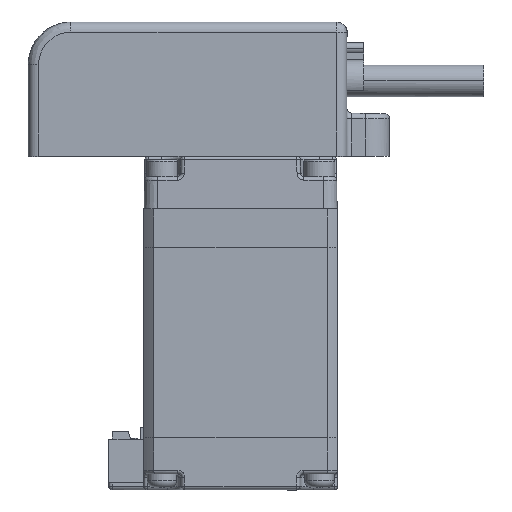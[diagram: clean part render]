
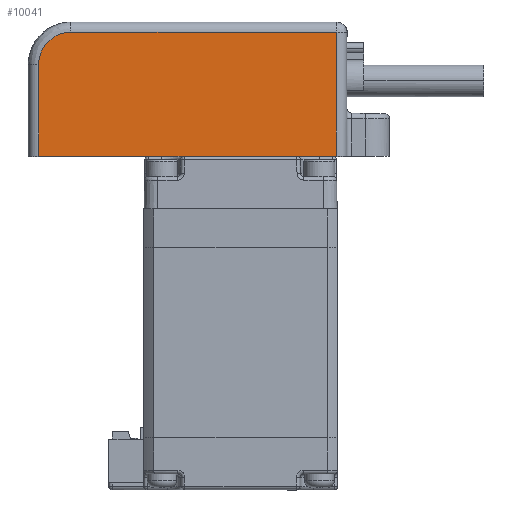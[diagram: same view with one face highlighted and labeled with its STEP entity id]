
A CAD part, top view. The second image highlights one B-rep face of the part: STEP entity #10041.
In plain terms, the highlighted planar face has unit normal (0, 0, 1).
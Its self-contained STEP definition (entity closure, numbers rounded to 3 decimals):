
#884 = CARTESIAN_POINT ( 'NONE',  ( -24.8, 18.1, 15.5 ) ) ;
#951 = CARTESIAN_POINT ( 'NONE',  ( 14., 0., 15.5 ) ) ;
#1251 = ORIENTED_EDGE ( 'NONE', *, *, #14848, .F. ) ;
#1403 = CARTESIAN_POINT ( 'NONE',  ( -27.553, 18.1, 15.5 ) ) ;
#1547 = DIRECTION ( 'NONE',  ( 1., 0., 0. ) ) ;
#2768 = DIRECTION ( 'NONE',  ( -1., 0., 0. ) ) ;
#3560 = LINE ( 'NONE', #4915, #8095 ) ;
#4604 = CARTESIAN_POINT ( 'NONE',  ( 0., 17.5, 15.5 ) ) ;
#4915 = CARTESIAN_POINT ( 'NONE',  ( 14., 17.5, 15.5 ) ) ;
#6941 = ORIENTED_EDGE ( 'NONE', *, *, #16730, .F. ) ;
#7123 = ORIENTED_EDGE ( 'NONE', *, *, #24994, .T. ) ;
#8095 = VECTOR ( 'NONE', #20451, 1000. ) ;
#8439 = VERTEX_POINT ( 'NONE', #15864 ) ;
#9104 = CARTESIAN_POINT ( 'NONE',  ( -29.5, 16.153, 15.5 ) ) ;
#9358 =( BOUNDED_CURVE ( )  B_SPLINE_CURVE ( 3, ( #22707, #9104, #1403, #14926 ),
 .UNSPECIFIED., .F., .T. ) 
 B_SPLINE_CURVE_WITH_KNOTS ( ( 4, 4 ),
 ( 0., 1. ),
 .UNSPECIFIED. ) 
 CURVE ( )  GEOMETRIC_REPRESENTATION_ITEM ( )  RATIONAL_B_SPLINE_CURVE ( ( 1., 0.805, 0.805, 1. ) ) 
 REPRESENTATION_ITEM ( '' )  );
#9674 = ORIENTED_EDGE ( 'NONE', *, *, #20000, .F. ) ;
#10041 = ADVANCED_FACE ( 'NONE', ( #14474 ), #12437, .F. ) ;
#10133 = CARTESIAN_POINT ( 'NONE',  ( 14., 18.1, 15.5 ) ) ;
#10600 = ORIENTED_EDGE ( 'NONE', *, *, #19429, .F. ) ;
#11572 = VERTEX_POINT ( 'NONE', #10133 ) ;
#12244 = LINE ( 'NONE', #21774, #21986 ) ;
#12313 = VERTEX_POINT ( 'NONE', #23318 ) ;
#12437 = PLANE ( 'NONE',  #23689 ) ;
#14349 = DIRECTION ( 'NONE',  ( 0., 0., -1. ) ) ;
#14474 = FACE_OUTER_BOUND ( 'NONE', #16826, .T. ) ;
#14751 = LINE ( 'NONE', #24829, #24567 ) ;
#14848 = EDGE_CURVE ( 'NONE', #12313, #8439, #12244, .T. ) ;
#14926 = CARTESIAN_POINT ( 'NONE',  ( -24.8, 18.1, 15.5 ) ) ;
#15864 = CARTESIAN_POINT ( 'NONE',  ( -29.5, 13.4, 15.5 ) ) ;
#15968 = VECTOR ( 'NONE', #24759, 1000. ) ;
#16564 = LINE ( 'NONE', #22773, #15968 ) ;
#16730 = EDGE_CURVE ( 'NONE', #8439, #22599, #9358, .T. ) ;
#16826 = EDGE_LOOP ( 'NONE', ( #7123, #10600, #9674, #6941, #1251 ) ) ;
#19429 = EDGE_CURVE ( 'NONE', #11572, #20421, #3560, .T. ) ;
#20000 = EDGE_CURVE ( 'NONE', #22599, #11572, #16564, .T. ) ;
#20421 = VERTEX_POINT ( 'NONE', #951 ) ;
#20451 = DIRECTION ( 'NONE',  ( 0., -1., 0. ) ) ;
#21774 = CARTESIAN_POINT ( 'NONE',  ( -29.5, 17.5, 15.5 ) ) ;
#21986 = VECTOR ( 'NONE', #23770, 1000. ) ;
#22599 = VERTEX_POINT ( 'NONE', #884 ) ;
#22707 = CARTESIAN_POINT ( 'NONE',  ( -29.5, 13.4, 15.5 ) ) ;
#22773 = CARTESIAN_POINT ( 'NONE',  ( 0., 18.1, 15.5 ) ) ;
#23318 = CARTESIAN_POINT ( 'NONE',  ( -29.5, 0., 15.5 ) ) ;
#23689 = AXIS2_PLACEMENT_3D ( 'NONE', #4604, #14349, #2768 ) ;
#23770 = DIRECTION ( 'NONE',  ( 0., 1., 0. ) ) ;
#24567 = VECTOR ( 'NONE', #1547, 1000. ) ;
#24759 = DIRECTION ( 'NONE',  ( 1., 0., 0. ) ) ;
#24829 = CARTESIAN_POINT ( 'NONE',  ( 0., 0., 15.5 ) ) ;
#24994 = EDGE_CURVE ( 'NONE', #12313, #20421, #14751, .T. ) ;
